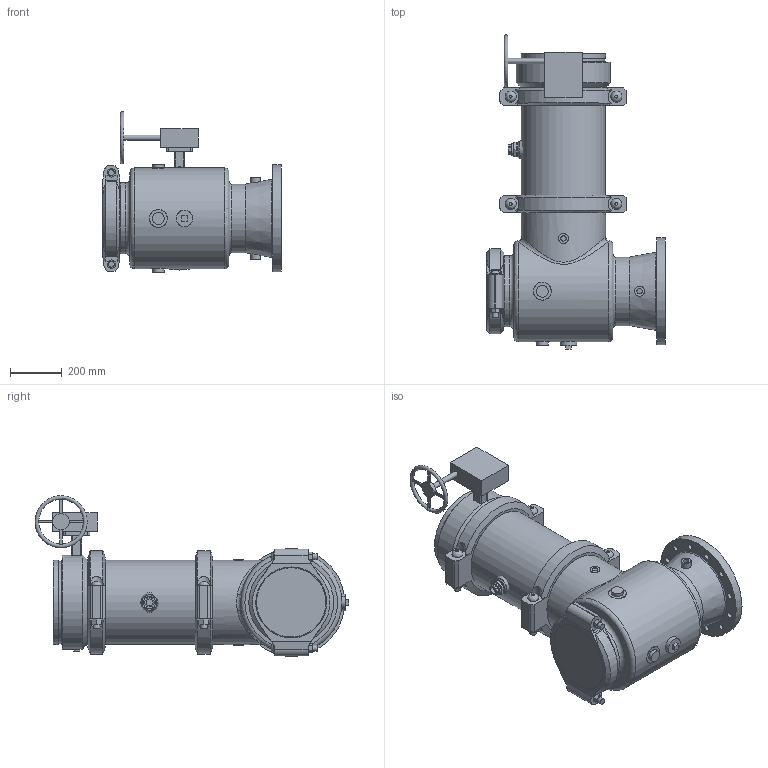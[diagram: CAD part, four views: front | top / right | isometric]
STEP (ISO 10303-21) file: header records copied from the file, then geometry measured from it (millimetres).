
FILE_DESCRIPTION(/* description */ ('VIC SVI PUMP DROP HORZ S/391 (OGSxFLG)','CAx-IF Rec.Pracs.---Representation and Presentation of Product Manufacturing Information (PMI)---4.0---2014-10-13'),/* implementation_level */ '2;1');
FILE_NAME(/* name */ 'C:\Users\kkamble\AppData\Roaming\Autodesk\ApplicationPlugins\Back Up\Victaulic_PN10_Series 391 (OGSxFLG)\Victaulic_PN10_Series 391 (OGSxFLG)_12.0x10.0 (300x250).stp',/* time_stamp */ '2020-11-26T23:45:48+05:00',/* author */ ('kkamble'),/* organization */ ('Victaulic'),/* preprocessor_version */ 'ST-DEVELOPER v17.2',/* originating_system */ 'Autodesk Inventor 2019',/* authorisation */ '');
FILE_SCHEMA (('AP242_MANAGED_MODEL_BASED_3D_ENGINEERING_MIM_LF { 1 0 10303 442 1 1 4 }'));
Length unit declared in the file: inch
Products named in the file (9): 391-12.0x10.0; 731D-12.0x10.0; 731D-12.0x10.0_1; 731D-12.0; 07-10.0; PIPE-12.0; 761-12.0; 077-12.0; 923-10.0x0.75
Assembly tree (9 placements, depth 3):
  391-12.0x10.0
    731D-12.0x10.0
      731D-12.0x10.0_1
      731D-12.0
      07-10.0
    PIPE-12.0
    761-12.0
    077-12.0  x2
    923-10.0x0.75
Bounding box: 685.8 x 1208.26 x 618.47 mm (x, y, z)
Volume: 45212516.1 mm3; surface area: 4319011.2 mm2
Topology: 8 solids, 15 shells, 451 faces, 1133 edges, 777 vertices
Faces by surface type: plane 249, cylinder 163, cone 19, torus 10, bspline 8, sphere 2
Full cylindrical faces by diameter (mm): 10.922 x4, 20.066 x1, 20.955 x4, 21.336 x1, 21.996 x12, 22.225 x4, 22.86 x1, 25.4 x8, 26.67 x1, 27.432 x4, 31.75 x1, 37.694 x2, 38.1 x4, 45.72 x3, 45.974 x2, 55.626 x1, 63.079 x1, 63.5 x1, 70.104 x1, 76.2 x1, 233.68 x1, 246.888 x1, 247.65 x1, 254 x1, 260.35 x1, 263.652 x1, 268.275 x2, 273.05 x5, 296.926 x1, 303.225 x1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
Entity records: 14295 total; most frequent: CARTESIAN_POINT 3703, DIRECTION 2150, ORIENTED_EDGE 1976, EDGE_CURVE 988, AXIS2_PLACEMENT_3D 842, VERTEX_POINT 679, EDGE_LOOP 507, LINE 466
